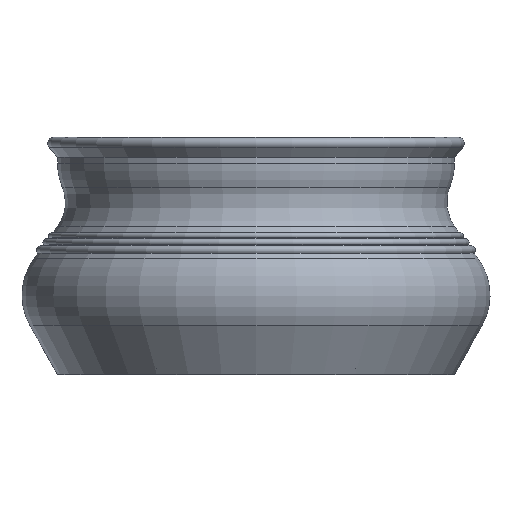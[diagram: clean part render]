
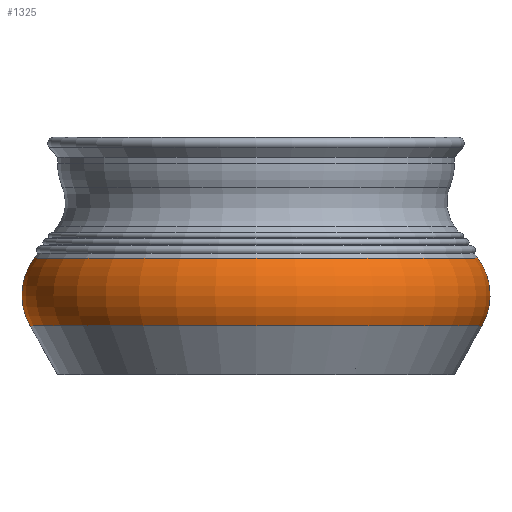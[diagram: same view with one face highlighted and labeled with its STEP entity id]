
A CAD part, front view. The second image highlights one B-rep face of the part: STEP entity #1325.
In plain terms, the highlighted toroidal (fillet/blend) face has major radius 145.001 mm and minor radius 52.359 mm.
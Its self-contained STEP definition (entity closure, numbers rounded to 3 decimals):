
#22=TOROIDAL_SURFACE('',#1505,145.001,52.359);
#166=FACE_OUTER_BOUND('',#284,.T.);
#284=EDGE_LOOP('',(#1208,#1209,#1210,#1211));
#526=CIRCLE('',#1467,190.623);
#549=CIRCLE('',#1506,187.196);
#550=CIRCLE('',#1507,52.359);
#653=VERTEX_POINT('',#2240);
#669=VERTEX_POINT('',#2303);
#818=EDGE_CURVE('',#653,#653,#526,.T.);
#849=EDGE_CURVE('',#669,#669,#549,.T.);
#850=EDGE_CURVE('',#669,#653,#550,.T.);
#1208=ORIENTED_EDGE('',*,*,#849,.F.);
#1209=ORIENTED_EDGE('',*,*,#850,.T.);
#1210=ORIENTED_EDGE('',*,*,#818,.T.);
#1211=ORIENTED_EDGE('',*,*,#850,.F.);
#1325=ADVANCED_FACE('',(#166),#22,.T.);
#1467=AXIS2_PLACEMENT_3D('',#2241,#1837,#1838);
#1505=AXIS2_PLACEMENT_3D('',#2302,#1921,#1922);
#1506=AXIS2_PLACEMENT_3D('',#2304,#1923,#1924);
#1507=AXIS2_PLACEMENT_3D('',#2305,#1925,#1926);
#1837=DIRECTION('center_axis',(0.,0.,1.));
#1838=DIRECTION('ref_axis',(1.,0.,0.));
#1921=DIRECTION('center_axis',(0.,0.,1.));
#1922=DIRECTION('ref_axis',(1.,0.,0.));
#1923=DIRECTION('center_axis',(0.,0.,1.));
#1924=DIRECTION('ref_axis',(1.,0.,0.));
#1925=DIRECTION('center_axis',(0.,-1.,0.));
#1926=DIRECTION('ref_axis',(-1.,0.,0.));
#2240=CARTESIAN_POINT('',(-190.623,0.,41.308));
#2241=CARTESIAN_POINT('Origin',(0.,0.,41.308));
#2302=CARTESIAN_POINT('Origin',(0.,0.,67.));
#2303=CARTESIAN_POINT('',(-187.196,0.,98.));
#2304=CARTESIAN_POINT('Origin',(0.,0.,98.));
#2305=CARTESIAN_POINT('Origin',(-145.001,0.,
67.));
